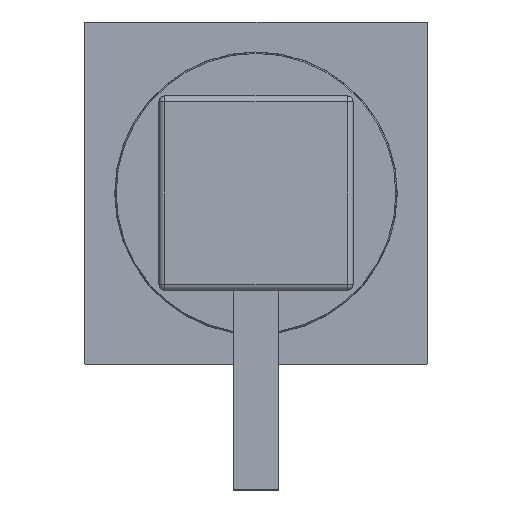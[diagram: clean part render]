
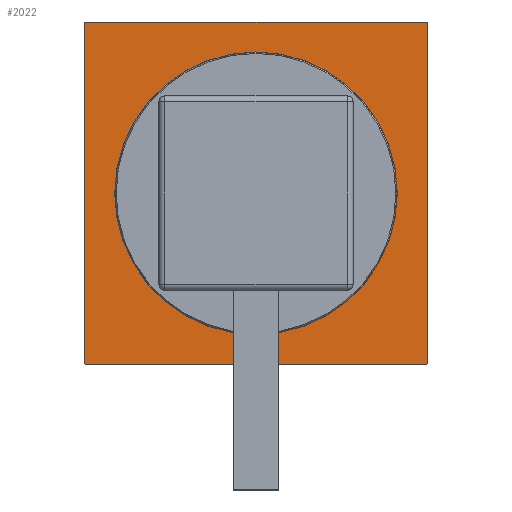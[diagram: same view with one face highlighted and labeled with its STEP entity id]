
A CAD part, top view. The second image highlights one B-rep face of the part: STEP entity #2022.
In plain terms, the highlighted planar face has unit normal (0, 0, 1) as drawn and (0, 1, 0) by its records, which use the part's own axes.
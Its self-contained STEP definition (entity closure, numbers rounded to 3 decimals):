
#3 = CARTESIAN_POINT ( 'NONE',  ( 0., 5., 24.75 ) ) ;
#538 = DIRECTION ( 'NONE',  ( 0., 1., 0. ) ) ;
#667 = CARTESIAN_POINT ( 'NONE',  ( -30., 5., 30. ) ) ;
#801 = ORIENTED_EDGE ( 'NONE', *, *, #4675, .T. ) ;
#1124 = CARTESIAN_POINT ( 'NONE',  ( -29.8, 5., -30. ) ) ;
#1324 = CARTESIAN_POINT ( 'NONE',  ( -30., 5., 29.8 ) ) ;
#1482 = DIRECTION ( 'NONE',  ( 0., 1., 0. ) ) ;
#1521 = EDGE_CURVE ( 'NONE', #12198, #6003, #13609, .T. ) ;
#1824 = AXIS2_PLACEMENT_3D ( 'NONE', #17751, #2488, #16302 ) ;
#2022 = ADVANCED_FACE ( 'NONE', ( #5620, #15068 ), #7537, .T. ) ;
#2270 = DIRECTION ( 'NONE',  ( -1., 0., 0. ) ) ;
#2488 = DIRECTION ( 'NONE',  ( 0., 1., 0. ) ) ;
#2578 = LINE ( 'NONE', #7029, #15575 ) ;
#2892 = AXIS2_PLACEMENT_3D ( 'NONE', #13228, #9105, #4750 ) ;
#3043 = CARTESIAN_POINT ( 'NONE',  ( -30., 5., 30. ) ) ;
#3636 = CARTESIAN_POINT ( 'NONE',  ( 0., 5., 0. ) ) ;
#3783 = EDGE_CURVE ( 'NONE', #13826, #10228, #14670, .T. ) ;
#3836 = LINE ( 'NONE', #667, #16843 ) ;
#3983 = DIRECTION ( 'NONE',  ( 0., 0., -1. ) ) ;
#4216 = DIRECTION ( 'NONE',  ( 0., 0., 1. ) ) ;
#4670 = CARTESIAN_POINT ( 'NONE',  ( 30., 5., -29.8 ) ) ;
#4675 = EDGE_CURVE ( 'NONE', #7792, #12377, #2578, .T. ) ;
#4750 = DIRECTION ( 'NONE',  ( 0., 0., 1. ) ) ;
#4857 = EDGE_CURVE ( 'NONE', #10228, #5554, #12484, .T. ) ;
#5051 = DIRECTION ( 'NONE',  ( 1., 0., 0. ) ) ;
#5085 = DIRECTION ( 'NONE',  ( 0., 0., 1. ) ) ;
#5126 = CARTESIAN_POINT ( 'NONE',  ( -29.8, 5., 29.8 ) ) ;
#5162 = DIRECTION ( 'NONE',  ( 0., 1., 0. ) ) ;
#5422 = DIRECTION ( 'NONE',  ( 0., 0., 1. ) ) ;
#5554 = VERTEX_POINT ( 'NONE', #7182 ) ;
#5620 = FACE_BOUND ( 'NONE', #10498, .T. ) ;
#6003 = VERTEX_POINT ( 'NONE', #11594 ) ;
#6010 = DIRECTION ( 'NONE',  ( 0., 1., 0. ) ) ;
#6296 = CARTESIAN_POINT ( 'NONE',  ( 29.8, 5., 30. ) ) ;
#6459 = ORIENTED_EDGE ( 'NONE', *, *, #8839, .F. ) ;
#6599 = ORIENTED_EDGE ( 'NONE', *, *, #13633, .T. ) ;
#7029 = CARTESIAN_POINT ( 'NONE',  ( 30., 5., -30. ) ) ;
#7182 = CARTESIAN_POINT ( 'NONE',  ( -30., 5., -29.8 ) ) ;
#7411 = CIRCLE ( 'NONE', #8728, 0.2 ) ;
#7505 = EDGE_CURVE ( 'NONE', #8690, #7792, #7411, .T. ) ;
#7525 = DIRECTION ( 'NONE',  ( 0., 0., 1. ) ) ;
#7537 = PLANE ( 'NONE',  #16518 ) ;
#7732 = EDGE_CURVE ( 'NONE', #6003, #8690, #3836, .T. ) ;
#7792 = VERTEX_POINT ( 'NONE', #11482 ) ;
#7966 = ORIENTED_EDGE ( 'NONE', *, *, #7505, .T. ) ;
#8690 = VERTEX_POINT ( 'NONE', #6296 ) ;
#8728 = AXIS2_PLACEMENT_3D ( 'NONE', #17884, #1482, #7525 ) ;
#8839 = EDGE_CURVE ( 'NONE', #16120, #11631, #18696, .T. ) ;
#9020 = DIRECTION ( 'NONE',  ( 0., 0., 1. ) ) ;
#9105 = DIRECTION ( 'NONE',  ( 0., 1., 0. ) ) ;
#9380 = EDGE_CURVE ( 'NONE', #12377, #13826, #9912, .T. ) ;
#9574 = VECTOR ( 'NONE', #5085, 1000. ) ;
#9880 = DIRECTION ( 'NONE',  ( 0., 1., 0. ) ) ;
#9912 = CIRCLE ( 'NONE', #16584, 0.2 ) ;
#10228 = VERTEX_POINT ( 'NONE', #1124 ) ;
#10498 = EDGE_LOOP ( 'NONE', ( #14774, #6459 ) ) ;
#10913 = ORIENTED_EDGE ( 'NONE', *, *, #3783, .T. ) ;
#11054 = DIRECTION ( 'NONE',  ( 0., 0., 1. ) ) ;
#11216 = LINE ( 'NONE', #14321, #9574 ) ;
#11407 = AXIS2_PLACEMENT_3D ( 'NONE', #5126, #9880, #4216 ) ;
#11430 = ORIENTED_EDGE ( 'NONE', *, *, #1521, .T. ) ;
#11482 = CARTESIAN_POINT ( 'NONE',  ( 30., 5., 29.8 ) ) ;
#11594 = CARTESIAN_POINT ( 'NONE',  ( -29.8, 5., 30. ) ) ;
#11631 = VERTEX_POINT ( 'NONE', #14790 ) ;
#12198 = VERTEX_POINT ( 'NONE', #1324 ) ;
#12377 = VERTEX_POINT ( 'NONE', #4670 ) ;
#12484 = CIRCLE ( 'NONE', #2892, 0.2 ) ;
#12627 = ORIENTED_EDGE ( 'NONE', *, *, #9380, .T. ) ;
#12630 = CARTESIAN_POINT ( 'NONE',  ( 29.8, 5., -29.8 ) ) ;
#13030 = CARTESIAN_POINT ( 'NONE',  ( -30., 5., -30. ) ) ;
#13228 = CARTESIAN_POINT ( 'NONE',  ( -29.8, 5., -29.8 ) ) ;
#13609 = CIRCLE ( 'NONE', #11407, 0.2 ) ;
#13633 = EDGE_CURVE ( 'NONE', #5554, #12198, #11216, .T. ) ;
#13826 = VERTEX_POINT ( 'NONE', #17705 ) ;
#14106 = CIRCLE ( 'NONE', #1824, 24.75 ) ;
#14321 = CARTESIAN_POINT ( 'NONE',  ( -30., 5., -30. ) ) ;
#14523 = ORIENTED_EDGE ( 'NONE', *, *, #7732, .T. ) ;
#14670 = LINE ( 'NONE', #13030, #19169 ) ;
#14774 = ORIENTED_EDGE ( 'NONE', *, *, #17911, .F. ) ;
#14790 = CARTESIAN_POINT ( 'NONE',  ( 0., 5., -24.75 ) ) ;
#15068 = FACE_OUTER_BOUND ( 'NONE', #18529, .T. ) ;
#15575 = VECTOR ( 'NONE', #3983, 1000. ) ;
#16120 = VERTEX_POINT ( 'NONE', #3 ) ;
#16302 = DIRECTION ( 'NONE',  ( 0., 0., 1. ) ) ;
#16518 = AXIS2_PLACEMENT_3D ( 'NONE', #3043, #6010, #9020 ) ;
#16584 = AXIS2_PLACEMENT_3D ( 'NONE', #12630, #538, #11054 ) ;
#16843 = VECTOR ( 'NONE', #5051, 1000. ) ;
#17705 = CARTESIAN_POINT ( 'NONE',  ( 29.8, 5., -30. ) ) ;
#17751 = CARTESIAN_POINT ( 'NONE',  ( 0., 5., 0. ) ) ;
#17884 = CARTESIAN_POINT ( 'NONE',  ( 29.8, 5., 29.8 ) ) ;
#17911 = EDGE_CURVE ( 'NONE', #11631, #16120, #14106, .T. ) ;
#18009 = ORIENTED_EDGE ( 'NONE', *, *, #4857, .T. ) ;
#18529 = EDGE_LOOP ( 'NONE', ( #6599, #11430, #14523, #7966, #801, #12627, #10913, #18009 ) ) ;
#18621 = AXIS2_PLACEMENT_3D ( 'NONE', #3636, #5162, #5422 ) ;
#18696 = CIRCLE ( 'NONE', #18621, 24.75 ) ;
#19169 = VECTOR ( 'NONE', #2270, 1000. ) ;
